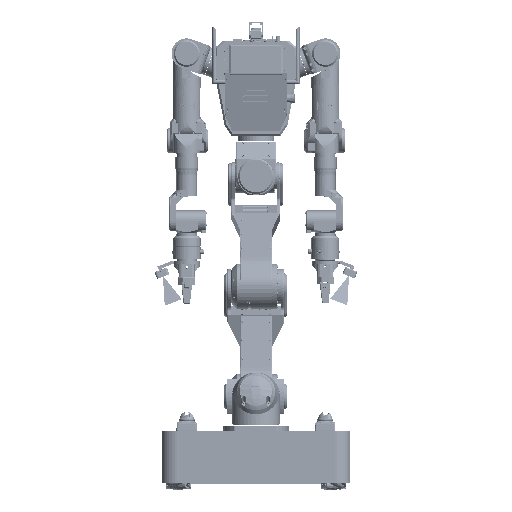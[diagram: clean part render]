
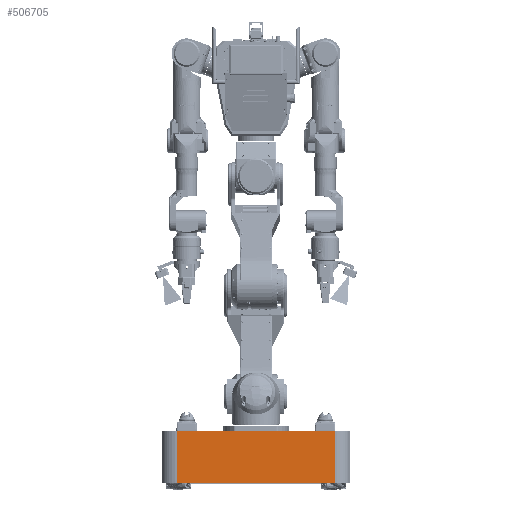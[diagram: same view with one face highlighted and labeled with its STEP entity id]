
A CAD part, left-side view. The second image highlights one B-rep face of the part: STEP entity #506705.
In plain terms, the highlighted planar face has unit normal (-1, 0, 0).
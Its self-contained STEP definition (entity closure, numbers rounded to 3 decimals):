
#23867=PLANE('',#545116);
#66411=FACE_OUTER_BOUND('',#97415,.T.);
#97415=EDGE_LOOP('',(#357486,#357487,#357488,#357489));
#129736=LINE('',#795603,#163753);
#129758=LINE('',#795686,#163775);
#129763=LINE('',#795700,#163780);
#129764=LINE('',#795701,#163781);
#163753=VECTOR('',#610184,1000.);
#163775=VECTOR('',#610252,1000.);
#163780=VECTOR('',#610265,1000.);
#163781=VECTOR('',#610266,1000.);
#228633=VERTEX_POINT('',#795600);
#228634=VERTEX_POINT('',#795602);
#228671=VERTEX_POINT('',#795683);
#228672=VERTEX_POINT('',#795685);
#279175=EDGE_CURVE('',#228633,#228634,#129736,.T.);
#279218=EDGE_CURVE('',#228672,#228671,#129758,.T.);
#279226=EDGE_CURVE('',#228671,#228634,#129763,.T.);
#279227=EDGE_CURVE('',#228633,#228672,#129764,.T.);
#357486=ORIENTED_EDGE('',*,*,#279218,.T.);
#357487=ORIENTED_EDGE('',*,*,#279226,.T.);
#357488=ORIENTED_EDGE('',*,*,#279175,.F.);
#357489=ORIENTED_EDGE('',*,*,#279227,.T.);
#506705=ADVANCED_FACE('',(#66411),#23867,.F.);
#545116=AXIS2_PLACEMENT_3D('',#795699,#610263,#610264);
#610184=DIRECTION('',(0.,-1.,0.));
#610252=DIRECTION('',(0.,-1.,0.));
#610263=DIRECTION('center_axis',(1.,0.,0.));
#610264=DIRECTION('ref_axis',(0.,0.,
1.));
#610265=DIRECTION('',(0.,0.,1.));
#610266=DIRECTION('',(0.,0.,-1.));
#795600=CARTESIAN_POINT('',(-349.5,250.,185.6));
#795602=CARTESIAN_POINT('',(-349.5,-250.,185.6));
#795603=CARTESIAN_POINT('',(-349.5,300.,185.6));
#795683=CARTESIAN_POINT('',(-349.5,-250.,20.6));
#795685=CARTESIAN_POINT('',(-349.5,250.,20.6));
#795686=CARTESIAN_POINT('',(-349.5,300.,20.6));
#795699=CARTESIAN_POINT('Origin',(-349.5,300.,185.6));
#795700=CARTESIAN_POINT('',(-349.5,-250.,185.6));
#795701=CARTESIAN_POINT('',(-349.5,250.,185.6));
